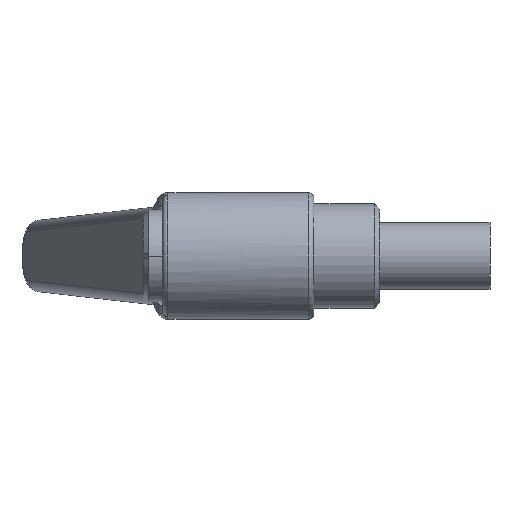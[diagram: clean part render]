
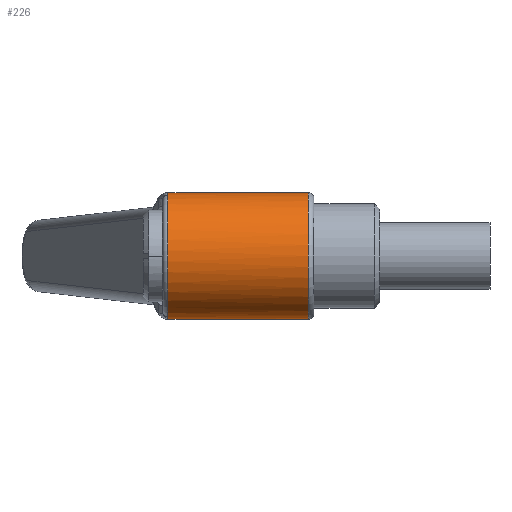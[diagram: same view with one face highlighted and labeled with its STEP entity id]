
A CAD part, left-side view. The second image highlights one B-rep face of the part: STEP entity #226.
In plain terms, the highlighted cylindrical face has radius 11.5 mm (diameter 23 mm), a partial arc.
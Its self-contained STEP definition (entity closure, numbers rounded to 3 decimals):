
#12 = CARTESIAN_POINT ( 'NONE',  ( 0., 27.5, 0. ) ) ;
#32 = CARTESIAN_POINT ( 'NONE',  ( 0., 27.5, 11.5 ) ) ;
#67 = CARTESIAN_POINT ( 'NONE',  ( 0., 27.5, -11.5 ) ) ;
#68 = FACE_OUTER_BOUND ( 'NONE', #1434, .T. ) ;
#76 = DIRECTION ( 'NONE',  ( 0., -1., 0. ) ) ;
#122 = VECTOR ( 'NONE', #76, 1000. ) ;
#146 = LINE ( 'NONE', #67, #122 ) ;
#147 = EDGE_CURVE ( 'NONE', #462, #1623, #146, .T. ) ;
#164 = CARTESIAN_POINT ( 'NONE',  ( -3.052, -1., 11.088 ) ) ;
#208 = VECTOR ( 'NONE', #355, 1000. ) ;
#214 = DIRECTION ( 'NONE',  ( 0., 1., 0. ) ) ;
#226 = ADVANCED_FACE ( 'NONE', ( #68 ), #2018, .T. ) ;
#243 = VERTEX_POINT ( 'NONE', #1510 ) ;
#262 = CIRCLE ( 'NONE', #1554, 11.5 ) ;
#355 = DIRECTION ( 'NONE',  ( 0., -1., 0. ) ) ;
#420 = ORIENTED_EDGE ( 'NONE', *, *, #1074, .F. ) ;
#462 = VERTEX_POINT ( 'NONE', #1735 ) ;
#479 = B_SPLINE_CURVE_WITH_KNOTS ( 'NONE', 3,
 ( #1039, #1820, #1663, #2172, #1186, #164 ),
 .UNSPECIFIED., .F., .F.,
 ( 4, 2, 4 ),
 ( 0.003, 0.005, 0.006 ),
 .UNSPECIFIED. ) ;
#480 = DIRECTION ( 'NONE',  ( 0., -1., 0. ) ) ;
#496 = ORIENTED_EDGE ( 'NONE', *, *, #147, .T. ) ;
#504 = ORIENTED_EDGE ( 'NONE', *, *, #991, .T. ) ;
#529 = ORIENTED_EDGE ( 'NONE', *, *, #946, .T. ) ;
#544 = CARTESIAN_POINT ( 'NONE',  ( 0., -0.814, -11.5 ) ) ;
#588 = CARTESIAN_POINT ( 'NONE',  ( -3.052, -1., 11.088 ) ) ;
#605 = ORIENTED_EDGE ( 'NONE', *, *, #1066, .T. ) ;
#662 = VERTEX_POINT ( 'NONE', #1305 ) ;
#731 = CARTESIAN_POINT ( 'NONE',  ( 0., -26.5, -11.5 ) ) ;
#748 = CARTESIAN_POINT ( 'NONE',  ( 0., -0.814, 11.5 ) ) ;
#777 = ORIENTED_EDGE ( 'NONE', *, *, #1030, .T. ) ;
#796 = CIRCLE ( 'NONE', #803, 11.5 ) ;
#803 = AXIS2_PLACEMENT_3D ( 'NONE', #893, #2022, #1059 ) ;
#893 = CARTESIAN_POINT ( 'NONE',  ( 0., -1., 0. ) ) ;
#946 = EDGE_CURVE ( 'NONE', #1681, #1131, #479, .T. ) ;
#991 = EDGE_CURVE ( 'NONE', #1131, #243, #796, .T. ) ;
#1030 = EDGE_CURVE ( 'NONE', #243, #462, #1464, .T. ) ;
#1039 = CARTESIAN_POINT ( 'NONE',  ( 0., -0.814, 11.5 ) ) ;
#1059 = DIRECTION ( 'NONE',  ( 0., 0., -1. ) ) ;
#1066 = EDGE_CURVE ( 'NONE', #1623, #662, #262, .T. ) ;
#1073 = CARTESIAN_POINT ( 'NONE',  ( -2.046, -1., -11.364 ) ) ;
#1074 = EDGE_CURVE ( 'NONE', #1681, #662, #1168, .T. ) ;
#1131 = VERTEX_POINT ( 'NONE', #588 ) ;
#1168 = LINE ( 'NONE', #32, #208 ) ;
#1186 = CARTESIAN_POINT ( 'NONE',  ( -2.551, -1., 11.225 ) ) ;
#1234 = CARTESIAN_POINT ( 'NONE',  ( 0., -26.5, 0. ) ) ;
#1305 = CARTESIAN_POINT ( 'NONE',  ( 0., -26.5, 11.5 ) ) ;
#1408 = DIRECTION ( 'NONE',  ( 0., 0., 1. ) ) ;
#1434 = EDGE_LOOP ( 'NONE', ( #420, #529, #504, #777, #496, #605 ) ) ;
#1464 = B_SPLINE_CURVE_WITH_KNOTS ( 'NONE', 3,
 ( #1539, #1073, #1549, #544 ),
 .UNSPECIFIED., .F., .F.,
 ( 4, 4 ),
 ( 0., 0.003 ),
 .UNSPECIFIED. ) ;
#1510 = CARTESIAN_POINT ( 'NONE',  ( -3.052, -1., -11.088 ) ) ;
#1539 = CARTESIAN_POINT ( 'NONE',  ( -3.052, -1., -11.088 ) ) ;
#1549 = CARTESIAN_POINT ( 'NONE',  ( -1.028, -0.94, -11.5 ) ) ;
#1554 = AXIS2_PLACEMENT_3D ( 'NONE', #1234, #214, #1408 ) ;
#1623 = VERTEX_POINT ( 'NONE', #731 ) ;
#1663 = CARTESIAN_POINT ( 'NONE',  ( -1.029, -0.924, 11.465 ) ) ;
#1681 = VERTEX_POINT ( 'NONE', #748 ) ;
#1735 = CARTESIAN_POINT ( 'NONE',  ( 0., -0.814, -11.5 ) ) ;
#1777 = AXIS2_PLACEMENT_3D ( 'NONE', #12, #480, #1859 ) ;
#1820 = CARTESIAN_POINT ( 'NONE',  ( -0.514, -0.877, 11.5 ) ) ;
#1859 = DIRECTION ( 'NONE',  ( 0., 0., -1. ) ) ;
#2018 = CYLINDRICAL_SURFACE ( 'NONE', #1777, 11.5 ) ;
#2022 = DIRECTION ( 'NONE',  ( 0., -1., 0. ) ) ;
#2172 = CARTESIAN_POINT ( 'NONE',  ( -2.047, -0.985, 11.328 ) ) ;
